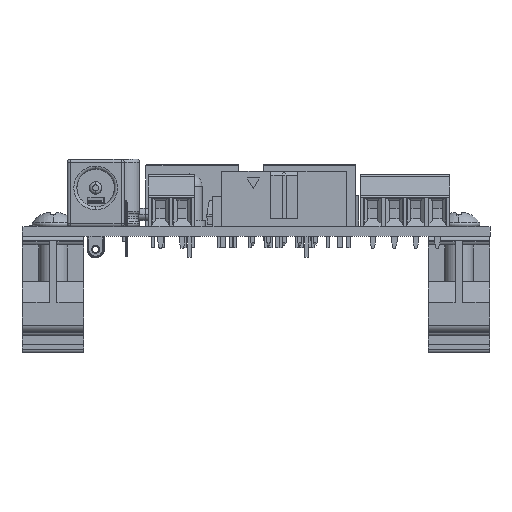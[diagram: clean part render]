
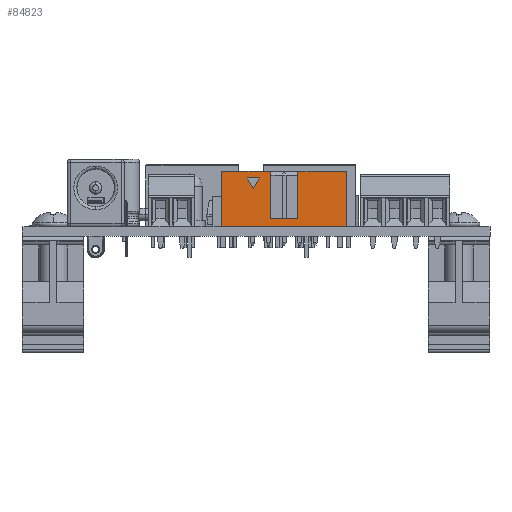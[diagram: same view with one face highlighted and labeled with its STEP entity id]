
A CAD part, front view. The second image highlights one B-rep face of the part: STEP entity #84823.
In plain terms, the highlighted planar face has unit normal (0, -1, 0).
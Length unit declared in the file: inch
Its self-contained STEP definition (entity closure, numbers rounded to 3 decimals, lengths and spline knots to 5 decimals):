
#444 = CARTESIAN_POINT ( 'NONE',  ( 1.59142, 0.23087, 0.35433 ) ) ;
#1424 = EDGE_CURVE ( 'NONE', #129104, #124977, #116504, .T. ) ;
#1508 = EDGE_CURVE ( 'NONE', #181374, #92009, #117809, .T. ) ;
#2449 = CARTESIAN_POINT ( 'NONE',  ( 2.08, 0.23087, 0.35433 ) ) ;
#2732 = CARTESIAN_POINT ( 'NONE',  ( 1.9762, 0.23087, 0.35433 ) ) ;
#4490 = DIRECTION ( 'NONE',  ( 1., 0., 0. ) ) ;
#4570 = CARTESIAN_POINT ( 'NONE',  ( 1.52192, 0.23087, 0.31192 ) ) ;
#8788 = CARTESIAN_POINT ( 'NONE',  ( 2.08, 0.23087, 0. ) ) ;
#9757 = CARTESIAN_POINT ( 'NONE',  ( 1.59142, 0.23087, 0.25328 ) ) ;
#17033 = CARTESIAN_POINT ( 'NONE',  ( 1.28, 0.23087, 0.23622 ) ) ;
#17641 = CARTESIAN_POINT ( 'NONE',  ( 1.52192, 0.23087, 0.31192 ) ) ;
#17711 = CARTESIAN_POINT ( 'NONE',  ( 1.76858, 0.23087, 0.25328 ) ) ;
#19941 = VERTEX_POINT ( 'NONE', #71624 ) ;
#25148 = EDGE_CURVE ( 'NONE', #19941, #85523, #77125, .T. ) ;
#25902 = VERTEX_POINT ( 'NONE', #176411 ) ;
#30071 = ORIENTED_EDGE ( 'NONE', *, *, #152352, .F. ) ;
#31373 = CARTESIAN_POINT ( 'NONE',  ( 1.54667, 0.23087, 0. ) ) ;
#32983 = ORIENTED_EDGE ( 'NONE', *, *, #1508, .F. ) ;
#33275 = FACE_OUTER_BOUND ( 'NONE', #130087, .T. ) ;
#37032 = VERTEX_POINT ( 'NONE', #2449 ) ;
#38000 = CARTESIAN_POINT ( 'NONE',  ( 1.49567, 0.23087, 0.31192 ) ) ;
#41003 = CARTESIAN_POINT ( 'NONE',  ( 2.08, 0.23087, 0. ) ) ;
#41246 = EDGE_CURVE ( 'NONE', #124977, #71739, #51798, .T. ) ;
#41667 = CARTESIAN_POINT ( 'NONE',  ( 2.08, 0.23087, 0.35433 ) ) ;
#51798 = B_SPLINE_CURVE_WITH_KNOTS ( 'NONE', 3,
 ( #159019, #38000, #189892, #55776 ),
 .UNSPECIFIED., .F., .F.,
 ( 4, 4 ),
 ( 0., 1. ),
 .UNSPECIFIED. ) ;
#53058 = ORIENTED_EDGE ( 'NONE', *, *, #122357, .F. ) ;
#55776 = CARTESIAN_POINT ( 'NONE',  ( 1.44318, 0.23087, 0.31192 ) ) ;
#58269 = ORIENTED_EDGE ( 'NONE', *, *, #128423, .F. ) ;
#63249 = CARTESIAN_POINT ( 'NONE',  ( 1.48255, 0.23087, 0.24234 ) ) ;
#65749 = CARTESIAN_POINT ( 'NONE',  ( 1.59142, 0.23087, 0.05118 ) ) ;
#70391 = ORIENTED_EDGE ( 'NONE', *, *, #146266, .F. ) ;
#71624 = CARTESIAN_POINT ( 'NONE',  ( 1.28, 0.23087, 0. ) ) ;
#71739 = VERTEX_POINT ( 'NONE', #87806 ) ;
#72476 = CARTESIAN_POINT ( 'NONE',  ( 1.59142, 0.23087, 0.35433 ) ) ;
#73350 = FACE_BOUND ( 'NONE', #116394, .T. ) ;
#74875 = ORIENTED_EDGE ( 'NONE', *, *, #123773, .F. ) ;
#77125 = B_SPLINE_CURVE_WITH_KNOTS ( 'NONE', 3,
 ( #119629, #31373, #149836, #164962 ),
 .UNSPECIFIED., .F., .F.,
 ( 4, 4 ),
 ( 0., 1. ),
 .UNSPECIFIED. ) ;
#77418 = CARTESIAN_POINT ( 'NONE',  ( 1.48255, 0.23087, 0.24234 ) ) ;
#78257 = CARTESIAN_POINT ( 'NONE',  ( 1.28, 0.23087, 0.11811 ) ) ;
#78984 = CARTESIAN_POINT ( 'NONE',  ( 1.49567, 0.23087, 0.26553 ) ) ;
#79082 = CARTESIAN_POINT ( 'NONE',  ( 2.08, 0.23087, 0.35433 ) ) ;
#80835 = EDGE_CURVE ( 'NONE', #145261, #159085, #166060, .T. ) ;
#84152 = CARTESIAN_POINT ( 'NONE',  ( 1.59142, 0.23087, 0.35433 ) ) ;
#84823 = ADVANCED_FACE ( 'NONE', ( #73350, #33275 ), #136201, .F. ) ;
#85523 = VERTEX_POINT ( 'NONE', #8788 ) ;
#86823 = ORIENTED_EDGE ( 'NONE', *, *, #80835, .T. ) ;
#87806 = CARTESIAN_POINT ( 'NONE',  ( 1.44318, 0.23087, 0.31192 ) ) ;
#92009 = VERTEX_POINT ( 'NONE', #65749 ) ;
#93333 = CARTESIAN_POINT ( 'NONE',  ( 1.76858, 0.23087, 0.35433 ) ) ;
#97289 = CARTESIAN_POINT ( 'NONE',  ( 1.44318, 0.23087, 0.31192 ) ) ;
#100449 = CARTESIAN_POINT ( 'NONE',  ( 1.70953, 0.23087, 0.05118 ) ) ;
#105349 = CARTESIAN_POINT ( 'NONE',  ( 1.28, 0.23087, 0.35433 ) ) ;
#107259 = CARTESIAN_POINT ( 'NONE',  ( 1.28, 0.23087, 0. ) ) ;
#107463 = CARTESIAN_POINT ( 'NONE',  ( 1.87239, 0.23087, 0.35433 ) ) ;
#109844 = B_SPLINE_CURVE_WITH_KNOTS ( 'NONE', 3,
 ( #97289, #112474, #169631, #140151 ),
 .UNSPECIFIED., .F., .F.,
 ( 4, 4 ),
 ( 0., 1. ),
 .UNSPECIFIED. ) ;
#112474 = CARTESIAN_POINT ( 'NONE',  ( 1.4563, 0.23087, 0.28873 ) ) ;
#115060 = B_SPLINE_CURVE_WITH_KNOTS ( 'NONE', 3,
 ( #107259, #78257, #17033, #168957 ),
 .UNSPECIFIED., .F., .F.,
 ( 4, 4 ),
 ( 0., 1. ),
 .UNSPECIFIED. ) ;
#115109 = CARTESIAN_POINT ( 'NONE',  ( 1.59142, 0.23087, 0.05118 ) ) ;
#116394 = EDGE_LOOP ( 'NONE', ( #30071, #167678, #175644 ) ) ;
#116504 = B_SPLINE_CURVE_WITH_KNOTS ( 'NONE', 3,
 ( #63249, #78984, #140848, #4570 ),
 .UNSPECIFIED., .F., .F.,
 ( 4, 4 ),
 ( 0., 1. ),
 .UNSPECIFIED. ) ;
#117527 = CARTESIAN_POINT ( 'NONE',  ( 1.76858, 0.23087, 0.05118 ) ) ;
#117809 = B_SPLINE_CURVE_WITH_KNOTS ( 'NONE', 3,
 ( #84152, #9757, #191954, #115109 ),
 .UNSPECIFIED., .F., .F.,
 ( 4, 4 ),
 ( 0., 1. ),
 .UNSPECIFIED. ) ;
#119629 = CARTESIAN_POINT ( 'NONE',  ( 1.28, 0.23087, 0. ) ) ;
#122357 = EDGE_CURVE ( 'NONE', #19941, #25902, #115060, .T. ) ;
#123773 = EDGE_CURVE ( 'NONE', #25902, #181374, #144015, .T. ) ;
#124206 = B_SPLINE_CURVE_WITH_KNOTS ( 'NONE', 3,
 ( #41667, #147571, #191627, #41003 ),
 .UNSPECIFIED., .F., .F.,
 ( 4, 4 ),
 ( 0., 1. ),
 .UNSPECIFIED. ) ;
#124977 = VERTEX_POINT ( 'NONE', #17641 ) ;
#125592 = DIRECTION ( 'NONE',  ( 0., 1., 0. ) ) ;
#126346 = CARTESIAN_POINT ( 'NONE',  ( 1.76858, 0.23087, 0.05118 ) ) ;
#128423 = EDGE_CURVE ( 'NONE', #92009, #159085, #188901, .T. ) ;
#129104 = VERTEX_POINT ( 'NONE', #77418 ) ;
#130087 = EDGE_LOOP ( 'NONE', ( #86823, #58269, #32983, #74875, #53058, #166410, #70391, #152805 ) ) ;
#131006 = CARTESIAN_POINT ( 'NONE',  ( 1.76858, 0.23087, 0.35433 ) ) ;
#132347 = CARTESIAN_POINT ( 'NONE',  ( 1.38381, 0.23087, 0.35433 ) ) ;
#133302 = CARTESIAN_POINT ( 'NONE',  ( 1.59142, 0.23087, 0.05118 ) ) ;
#136201 = PLANE ( 'NONE',  #144954 ) ;
#137517 = CARTESIAN_POINT ( 'NONE',  ( 1.76858, 0.23087, 0.05118 ) ) ;
#138336 = CARTESIAN_POINT ( 'NONE',  ( 1.76858, 0.23087, 0.35433 ) ) ;
#140151 = CARTESIAN_POINT ( 'NONE',  ( 1.48255, 0.23087, 0.24234 ) ) ;
#140743 = CARTESIAN_POINT ( 'NONE',  ( 1.28, 0.23087, 0.35433 ) ) ;
#140848 = CARTESIAN_POINT ( 'NONE',  ( 1.5088, 0.23087, 0.28873 ) ) ;
#144015 = B_SPLINE_CURVE_WITH_KNOTS ( 'NONE', 3,
 ( #105349, #132347, #148713, #72476 ),
 .UNSPECIFIED., .F., .F.,
 ( 4, 4 ),
 ( 0., 1. ),
 .UNSPECIFIED. ) ;
#144954 = AXIS2_PLACEMENT_3D ( 'NONE', #140743, #125592, #4490 ) ;
#145261 = VERTEX_POINT ( 'NONE', #131006 ) ;
#146266 = EDGE_CURVE ( 'NONE', #37032, #85523, #124206, .T. ) ;
#147571 = CARTESIAN_POINT ( 'NONE',  ( 2.08, 0.23087, 0.23622 ) ) ;
#148713 = CARTESIAN_POINT ( 'NONE',  ( 1.48761, 0.23087, 0.35433 ) ) ;
#149836 = CARTESIAN_POINT ( 'NONE',  ( 1.81333, 0.23087, 0. ) ) ;
#152352 = EDGE_CURVE ( 'NONE', #71739, #129104, #109844, .T. ) ;
#152805 = ORIENTED_EDGE ( 'NONE', *, *, #176010, .F. ) ;
#153262 = CARTESIAN_POINT ( 'NONE',  ( 1.76858, 0.23087, 0.15223 ) ) ;
#159019 = CARTESIAN_POINT ( 'NONE',  ( 1.52192, 0.23087, 0.31192 ) ) ;
#159085 = VERTEX_POINT ( 'NONE', #126346 ) ;
#160936 = B_SPLINE_CURVE_WITH_KNOTS ( 'NONE', 3,
 ( #138336, #107463, #2732, #79082 ),
 .UNSPECIFIED., .F., .F.,
 ( 4, 4 ),
 ( 0., 1. ),
 .UNSPECIFIED. ) ;
#164962 = CARTESIAN_POINT ( 'NONE',  ( 2.08, 0.23087, 0. ) ) ;
#166060 = B_SPLINE_CURVE_WITH_KNOTS ( 'NONE', 3,
 ( #93333, #17711, #153262, #137517 ),
 .UNSPECIFIED., .F., .F.,
 ( 4, 4 ),
 ( 0., 1. ),
 .UNSPECIFIED. ) ;
#166410 = ORIENTED_EDGE ( 'NONE', *, *, #25148, .T. ) ;
#167678 = ORIENTED_EDGE ( 'NONE', *, *, #41246, .F. ) ;
#168957 = CARTESIAN_POINT ( 'NONE',  ( 1.28, 0.23087, 0.35433 ) ) ;
#169631 = CARTESIAN_POINT ( 'NONE',  ( 1.46943, 0.23087, 0.26553 ) ) ;
#175644 = ORIENTED_EDGE ( 'NONE', *, *, #1424, .F. ) ;
#176010 = EDGE_CURVE ( 'NONE', #145261, #37032, #160936, .T. ) ;
#176411 = CARTESIAN_POINT ( 'NONE',  ( 1.28, 0.23087, 0.35433 ) ) ;
#176661 = CARTESIAN_POINT ( 'NONE',  ( 1.65047, 0.23087, 0.05118 ) ) ;
#181374 = VERTEX_POINT ( 'NONE', #444 ) ;
#188901 = B_SPLINE_CURVE_WITH_KNOTS ( 'NONE', 3,
 ( #133302, #176661, #100449, #117527 ),
 .UNSPECIFIED., .F., .F.,
 ( 4, 4 ),
 ( 0., 1. ),
 .UNSPECIFIED. ) ;
#189892 = CARTESIAN_POINT ( 'NONE',  ( 1.46943, 0.23087, 0.31192 ) ) ;
#191627 = CARTESIAN_POINT ( 'NONE',  ( 2.08, 0.23087, 0.11811 ) ) ;
#191954 = CARTESIAN_POINT ( 'NONE',  ( 1.59142, 0.23087, 0.15223 ) ) ;
